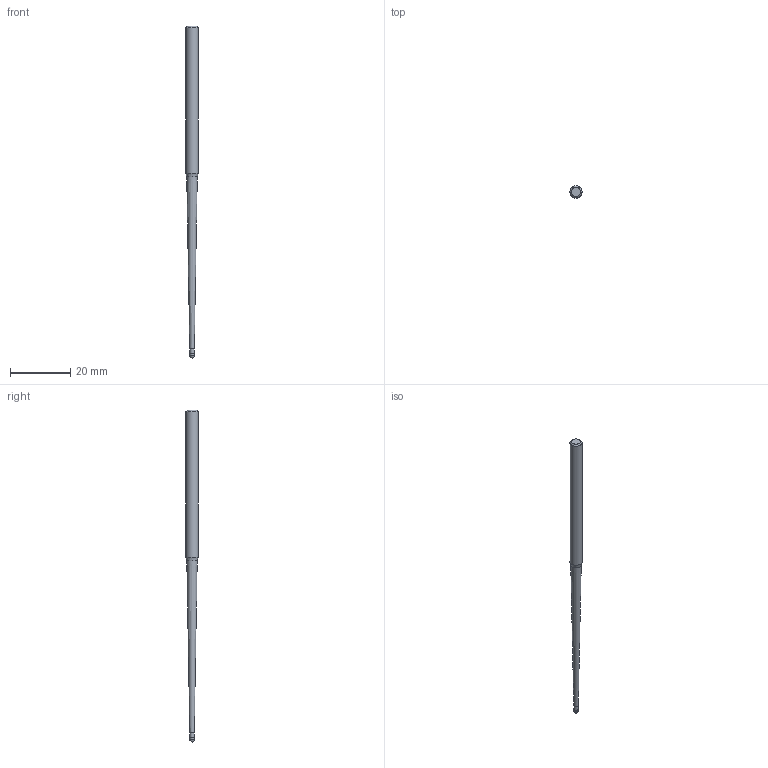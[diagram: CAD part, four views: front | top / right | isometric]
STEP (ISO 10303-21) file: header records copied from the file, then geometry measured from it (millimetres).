
FILE_DESCRIPTION((''),'2;1');
FILE_NAME('C:\Users\nsx150\AppData\Local\Temp\Mastercam 2021\SNAKH10GOD\TEMP.step','2021-10-21T13:32:54',(''),(''),'STEP Write','Mastercam 2021 ... CNC Software, Inc.','');
FILE_SCHEMA(('AUTOMOTIVE_DESIGN'));
Length unit declared in the file: millimetre
Products named in the file (1): None
Bounding box: 4 x 4 x 110 mm (x, y, z)
Volume: 921.8 mm3; surface area: 1099.3 mm2
Topology: 2 solids, 2 shells, 10 faces, 16 edges, 9 vertices
Faces by surface type: plane 3, cylinder 3, cone 3, sphere 1
Full cylindrical faces by diameter (mm): 1.485 x1, 1.5 x1, 4 x1
Entity records: 232 total; most frequent: DIRECTION 40, CARTESIAN_POINT 28, AXIS2_PLACEMENT_3D 20, ORIENTED_EDGE 16, EDGE_LOOP 16, STYLED_ITEM 13, ADVANCED_FACE 10, FACE_BOUND 9
